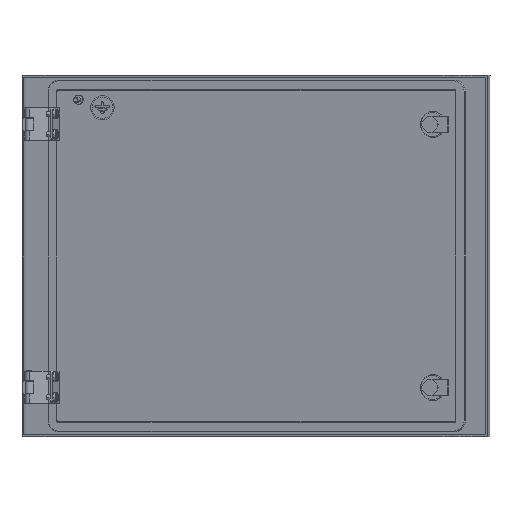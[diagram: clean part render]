
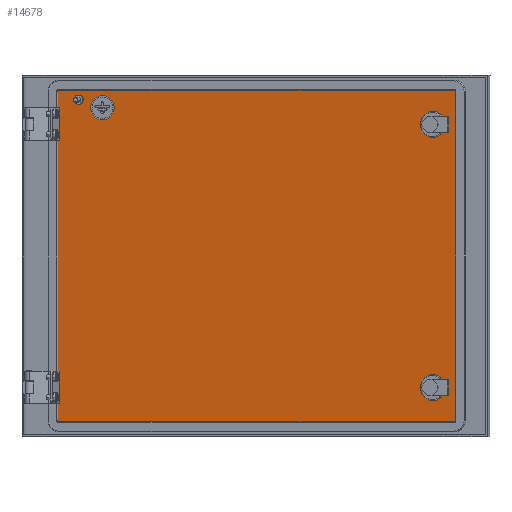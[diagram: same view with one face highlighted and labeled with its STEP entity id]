
A CAD part, left-side view. The second image highlights one B-rep face of the part: STEP entity #14678.
In plain terms, the highlighted planar face has unit normal (-0.966, 0.259, 0).
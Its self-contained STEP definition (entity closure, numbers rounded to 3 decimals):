
#16 = CIRCLE ( 'NONE', #19464, 2. ) ;
#117 = EDGE_CURVE ( 'NONE', #14274, #13385, #1298, .T. ) ;
#151 = DIRECTION ( 'NONE',  ( -0.966, 0.259, 0. ) ) ;
#287 = CARTESIAN_POINT ( 'NONE',  ( -154.038, -561.072, 228. ) ) ;
#296 = CARTESIAN_POINT ( 'NONE',  ( -28.741, -92.987, 218.666 ) ) ;
#397 = DIRECTION ( 'NONE',  ( 0., 0., -1. ) ) ;
#796 = VERTEX_POINT ( 'NONE', #2914 ) ;
#844 = VERTEX_POINT ( 'NONE', #9323 ) ;
#870 = VERTEX_POINT ( 'NONE', #14151 ) ;
#914 = CIRCLE ( 'NONE', #4275, 2.65 ) ;
#917 = EDGE_CURVE ( 'NONE', #4639, #19831, #12735, .T. ) ;
#926 = DIRECTION ( 'NONE',  ( 0.259, 0.966, 0. ) ) ;
#1134 = DIRECTION ( 'NONE',  ( 0.259, 0.966, 0. ) ) ;
#1298 = CIRCLE ( 'NONE', #7351, 2. ) ;
#1299 = EDGE_LOOP ( 'NONE', ( #15927, #3198 ) ) ;
#1346 = CIRCLE ( 'NONE', #12752, 15. ) ;
#1354 = ORIENTED_EDGE ( 'NONE', *, *, #1666, .F. ) ;
#1559 = EDGE_CURVE ( 'NONE', #844, #18647, #16, .T. ) ;
#1575 = DIRECTION ( 'NONE',  ( 0.259, 0.966, 0. ) ) ;
#1666 = EDGE_CURVE ( 'NONE', #16594, #8024, #1346, .T. ) ;
#1733 = AXIS2_PLACEMENT_3D ( 'NONE', #15525, #4387, #1134 ) ;
#1748 = ORIENTED_EDGE ( 'NONE', *, *, #7856, .F. ) ;
#1787 = DIRECTION ( 'NONE',  ( -0.966, 0.259, 0. ) ) ;
#1910 = EDGE_CURVE ( 'NONE', #844, #796, #7448, .T. ) ;
#1968 = PLANE ( 'NONE',  #9103 ) ;
#2079 = DIRECTION ( 'NONE',  ( -0.966, 0.259, 0. ) ) ;
#2089 = EDGE_CURVE ( 'NONE', #8024, #16594, #9960, .T. ) ;
#2227 = EDGE_CURVE ( 'NONE', #18421, #14274, #9308, .T. ) ;
#2461 = CARTESIAN_POINT ( 'NONE',  ( -146.539, -533.058, 187.5 ) ) ;
#2564 = ORIENTED_EDGE ( 'NONE', *, *, #7906, .F. ) ;
#2914 = CARTESIAN_POINT ( 'NONE',  ( -22.422, -69.382, 228. ) ) ;
#3198 = ORIENTED_EDGE ( 'NONE', *, *, #14888, .F. ) ;
#3549 = DIRECTION ( 'NONE',  ( 0.966, -0.259, 0. ) ) ;
#3690 = CIRCLE ( 'NONE', #4694, 16. ) ;
#3731 = AXIS2_PLACEMENT_3D ( 'NONE', #14625, #19648, #6554 ) ;
#3851 = CARTESIAN_POINT ( 'NONE',  ( -150.676, -548.514, -137.5 ) ) ;
#3925 = DIRECTION ( 'NONE',  ( 0.259, 0.966, 0. ) ) ;
#3957 = EDGE_CURVE ( 'NONE', #10604, #16294, #914, .T. ) ;
#3959 = FACE_BOUND ( 'NONE', #10269, .T. ) ;
#4013 = ORIENTED_EDGE ( 'NONE', *, *, #117, .F. ) ;
#4275 = AXIS2_PLACEMENT_3D ( 'NONE', #11794, #151, #6561 ) ;
#4387 = DIRECTION ( 'NONE',  ( -0.966, 0.259, 0. ) ) ;
#4391 = DIRECTION ( 'NONE',  ( 0.966, -0.259, 0. ) ) ;
#4566 = DIRECTION ( 'NONE',  ( -0.966, 0.259, 0. ) ) ;
#4639 = VERTEX_POINT ( 'NONE', #14900 ) ;
#4694 = AXIS2_PLACEMENT_3D ( 'NONE', #6617, #13007, #14688 ) ;
#4734 = DIRECTION ( 'NONE',  ( -0.966, 0.259, 0. ) ) ;
#4791 = CARTESIAN_POINT ( 'NONE',  ( -154.038, -561.072, 228. ) ) ;
#5219 = DIRECTION ( 'NONE',  ( 0.259, 0.966, 0. ) ) ;
#5424 = ORIENTED_EDGE ( 'NONE', *, *, #2227, .F. ) ;
#5441 = CARTESIAN_POINT ( 'NONE',  ( -150.676, -548.514, 187.5 ) ) ;
#6093 = CARTESIAN_POINT ( 'NONE',  ( -22.94, -71.314, -178. ) ) ;
#6211 = ORIENTED_EDGE ( 'NONE', *, *, #6428, .T. ) ;
#6428 = EDGE_CURVE ( 'NONE', #18647, #4639, #8867, .T. ) ;
#6527 = ORIENTED_EDGE ( 'NONE', *, *, #17144, .F. ) ;
#6554 = DIRECTION ( 'NONE',  ( 0.259, 0.966, 0. ) ) ;
#6561 = DIRECTION ( 'NONE',  ( 0.259, 0.966, 0. ) ) ;
#6617 = CARTESIAN_POINT ( 'NONE',  ( -146.539, -533.058, -137.5 ) ) ;
#6703 = AXIS2_PLACEMENT_3D ( 'NONE', #20634, #17711, #15933 ) ;
#7277 = CARTESIAN_POINT ( 'NONE',  ( -22.94, -71.314, -180. ) ) ;
#7351 = AXIS2_PLACEMENT_3D ( 'NONE', #17345, #15571, #15772 ) ;
#7448 = LINE ( 'NONE', #9131, #13448 ) ;
#7462 = EDGE_LOOP ( 'NONE', ( #11459, #1354 ) ) ;
#7483 = AXIS2_PLACEMENT_3D ( 'NONE', #8147, #4566, #14323 ) ;
#7856 = EDGE_CURVE ( 'NONE', #19673, #870, #3690, .T. ) ;
#7906 = EDGE_CURVE ( 'NONE', #796, #18421, #18104, .T. ) ;
#8024 = VERTEX_POINT ( 'NONE', #17514 ) ;
#8147 = CARTESIAN_POINT ( 'NONE',  ( -29.404, -95.464, 218. ) ) ;
#8599 = FACE_BOUND ( 'NONE', #13691, .T. ) ;
#8695 = VECTOR ( 'NONE', #13792, 1000. ) ;
#8867 = LINE ( 'NONE', #7277, #8695 ) ;
#9088 = FACE_BOUND ( 'NONE', #7462, .T. ) ;
#9103 = AXIS2_PLACEMENT_3D ( 'NONE', #10055, #3549, #18339 ) ;
#9131 = CARTESIAN_POINT ( 'NONE',  ( -22.422, -69.382, 25. ) ) ;
#9308 = LINE ( 'NONE', #14024, #17288 ) ;
#9323 = CARTESIAN_POINT ( 'NONE',  ( -22.422, -69.382, -178. ) ) ;
#9773 = CIRCLE ( 'NONE', #3731, 16. ) ;
#9814 = CIRCLE ( 'NONE', #13498, 16. ) ;
#9960 = CIRCLE ( 'NONE', #13601, 15. ) ;
#10055 = CARTESIAN_POINT ( 'NONE',  ( -105.426, -379.466, 741.5 ) ) ;
#10152 = CARTESIAN_POINT ( 'NONE',  ( -22.94, -71.314, -180. ) ) ;
#10269 = EDGE_LOOP ( 'NONE', ( #11215, #1748 ) ) ;
#10394 = CARTESIAN_POINT ( 'NONE',  ( -41.04, -138.934, 208. ) ) ;
#10502 = CIRCLE ( 'NONE', #7483, 2.65 ) ;
#10604 = VERTEX_POINT ( 'NONE', #296 ) ;
#10783 = EDGE_CURVE ( 'NONE', #870, #19673, #13130, .T. ) ;
#10846 = EDGE_LOOP ( 'NONE', ( #14115, #12369, #6211, #13461, #16771, #4013, #5424, #2564 ) ) ;
#11215 = ORIENTED_EDGE ( 'NONE', *, *, #10783, .F. ) ;
#11296 = CARTESIAN_POINT ( 'NONE',  ( -22.94, -71.314, 230. ) ) ;
#11459 = ORIENTED_EDGE ( 'NONE', *, *, #2089, .F. ) ;
#11554 = EDGE_CURVE ( 'NONE', #12322, #16957, #9814, .T. ) ;
#11625 = LINE ( 'NONE', #287, #12536 ) ;
#11730 = AXIS2_PLACEMENT_3D ( 'NONE', #16791, #4391, #926 ) ;
#11794 = CARTESIAN_POINT ( 'NONE',  ( -29.404, -95.464, 218. ) ) ;
#11937 = FACE_BOUND ( 'NONE', #1299, .T. ) ;
#12070 = ORIENTED_EDGE ( 'NONE', *, *, #3957, .F. ) ;
#12322 = VERTEX_POINT ( 'NONE', #17801 ) ;
#12369 = ORIENTED_EDGE ( 'NONE', *, *, #1559, .T. ) ;
#12536 = VECTOR ( 'NONE', #397, 1000. ) ;
#12735 = CIRCLE ( 'NONE', #6703, 2. ) ;
#12752 = AXIS2_PLACEMENT_3D ( 'NONE', #17848, #1787, #1575 ) ;
#13007 = DIRECTION ( 'NONE',  ( -0.966, 0.259, 0. ) ) ;
#13011 = CARTESIAN_POINT ( 'NONE',  ( -153.521, -559.14, 230. ) ) ;
#13130 = CIRCLE ( 'NONE', #1733, 16. ) ;
#13385 = VERTEX_POINT ( 'NONE', #4791 ) ;
#13448 = VECTOR ( 'NONE', #13856, 1000. ) ;
#13461 = ORIENTED_EDGE ( 'NONE', *, *, #917, .T. ) ;
#13498 = AXIS2_PLACEMENT_3D ( 'NONE', #2461, #18304, #3925 ) ;
#13601 = AXIS2_PLACEMENT_3D ( 'NONE', #18128, #2079, #5219 ) ;
#13691 = EDGE_LOOP ( 'NONE', ( #6527, #12070 ) ) ;
#13792 = DIRECTION ( 'NONE',  ( -0.259, -0.966, 0. ) ) ;
#13856 = DIRECTION ( 'NONE',  ( 0., 0., 1. ) ) ;
#14024 = CARTESIAN_POINT ( 'NONE',  ( -22.94, -71.314, 230. ) ) ;
#14115 = ORIENTED_EDGE ( 'NONE', *, *, #1910, .F. ) ;
#14151 = CARTESIAN_POINT ( 'NONE',  ( -142.402, -517.602, -137.5 ) ) ;
#14274 = VERTEX_POINT ( 'NONE', #13011 ) ;
#14323 = DIRECTION ( 'NONE',  ( 0.259, 0.966, 0. ) ) ;
#14625 = CARTESIAN_POINT ( 'NONE',  ( -146.539, -533.058, 187.5 ) ) ;
#14678 = ADVANCED_FACE ( 'NONE', ( #16574, #3959, #11937, #8599, #9088 ), #1968, .F. ) ;
#14688 = DIRECTION ( 'NONE',  ( 0.259, 0.966, 0. ) ) ;
#14888 = EDGE_CURVE ( 'NONE', #16957, #12322, #9773, .T. ) ;
#14900 = CARTESIAN_POINT ( 'NONE',  ( -153.521, -559.14, -180. ) ) ;
#15525 = CARTESIAN_POINT ( 'NONE',  ( -146.539, -533.058, -137.5 ) ) ;
#15571 = DIRECTION ( 'NONE',  ( 0.966, -0.259, 0. ) ) ;
#15772 = DIRECTION ( 'NONE',  ( 0., 0., 1. ) ) ;
#15927 = ORIENTED_EDGE ( 'NONE', *, *, #11554, .F. ) ;
#15933 = DIRECTION ( 'NONE',  ( 0., 0., -1. ) ) ;
#16294 = VERTEX_POINT ( 'NONE', #20193 ) ;
#16574 = FACE_OUTER_BOUND ( 'NONE', #10846, .T. ) ;
#16594 = VERTEX_POINT ( 'NONE', #10394 ) ;
#16771 = ORIENTED_EDGE ( 'NONE', *, *, #18030, .F. ) ;
#16791 = CARTESIAN_POINT ( 'NONE',  ( -22.94, -71.314, 228. ) ) ;
#16957 = VERTEX_POINT ( 'NONE', #5441 ) ;
#17144 = EDGE_CURVE ( 'NONE', #16294, #10604, #10502, .T. ) ;
#17177 = CARTESIAN_POINT ( 'NONE',  ( -154.038, -561.072, -178. ) ) ;
#17288 = VECTOR ( 'NONE', #17377, 1000. ) ;
#17324 = DIRECTION ( 'NONE',  ( 0.259, 0.966, 0. ) ) ;
#17345 = CARTESIAN_POINT ( 'NONE',  ( -153.521, -559.14, 228. ) ) ;
#17377 = DIRECTION ( 'NONE',  ( -0.259, -0.966, 0. ) ) ;
#17514 = CARTESIAN_POINT ( 'NONE',  ( -33.283, -109.954, 208. ) ) ;
#17711 = DIRECTION ( 'NONE',  ( -0.966, 0.259, 0. ) ) ;
#17801 = CARTESIAN_POINT ( 'NONE',  ( -142.402, -517.602, 187.5 ) ) ;
#17848 = CARTESIAN_POINT ( 'NONE',  ( -37.161, -124.444, 208. ) ) ;
#18030 = EDGE_CURVE ( 'NONE', #13385, #19831, #11625, .T. ) ;
#18104 = CIRCLE ( 'NONE', #11730, 2. ) ;
#18128 = CARTESIAN_POINT ( 'NONE',  ( -37.161, -124.444, 208. ) ) ;
#18304 = DIRECTION ( 'NONE',  ( -0.966, 0.259, 0. ) ) ;
#18339 = DIRECTION ( 'NONE',  ( 0., 0., -1. ) ) ;
#18421 = VERTEX_POINT ( 'NONE', #11296 ) ;
#18647 = VERTEX_POINT ( 'NONE', #10152 ) ;
#19464 = AXIS2_PLACEMENT_3D ( 'NONE', #6093, #4734, #17324 ) ;
#19648 = DIRECTION ( 'NONE',  ( -0.966, 0.259, 0. ) ) ;
#19673 = VERTEX_POINT ( 'NONE', #3851 ) ;
#19831 = VERTEX_POINT ( 'NONE', #17177 ) ;
#20193 = CARTESIAN_POINT ( 'NONE',  ( -30.067, -97.942, 217.334 ) ) ;
#20634 = CARTESIAN_POINT ( 'NONE',  ( -153.521, -559.14, -178. ) ) ;
